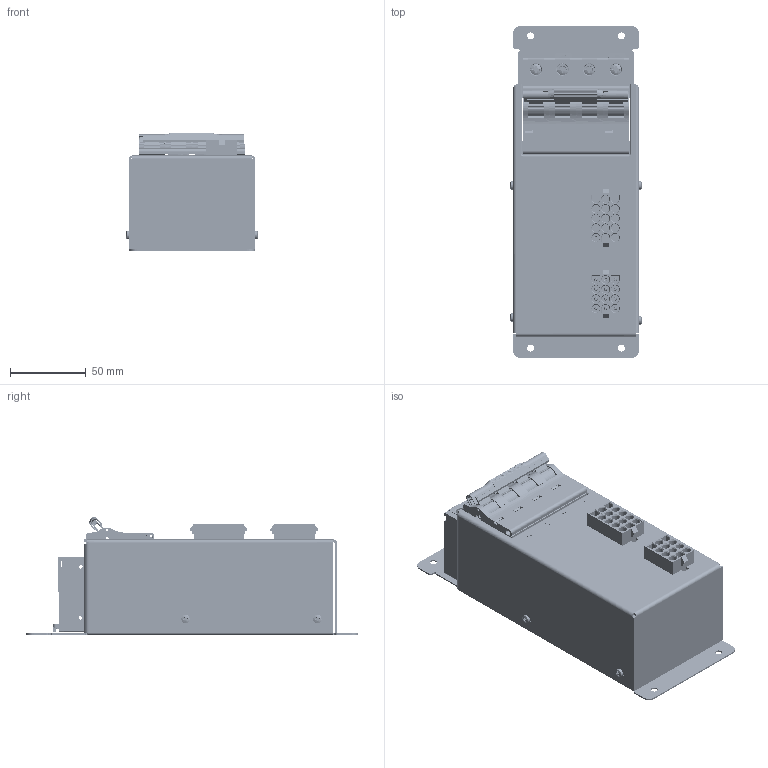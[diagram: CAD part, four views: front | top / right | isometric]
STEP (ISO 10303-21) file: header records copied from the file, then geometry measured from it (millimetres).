
FILE_DESCRIPTION (( 'STEP AP203' ), '1' );
FILE_NAME ('分适配器（进线）.STEP', '2025-03-12T02:16:56', ( '' ), ( '' ), 'SwSTEP 2.0', 'SolidWorks 2018', '' );
FILE_SCHEMA (( 'CONFIG_CONTROL_DESIGN' ));
Length unit declared in the file: millimetre
Products named in the file (12): GBT 823 M3×8_GB_CROSS_SCREWS_TYPE3 M3X8-8-N; S-1-3; 8LD.024.1280; NDB2-63B6-4; 15渀脣釱; GBT 823 M3×6_GB_CROSS_SCREWS_TYPE3 M3X6-6-N; HF115F-A[3]樟萇ん; GBT 819.1 M3×6_GB_CROSS_SCREWS_TYPE4 M3X4-2.35  H type-N; 13渀脣釱; 蹟譫翐; 煦巠饜んㄗ輛盄ㄘ; 8LD.310.1051
Assembly tree (23 placements, depth 2):
  煦巠饜んㄗ輛盄ㄘ
    8LD.024.1280
    8LD.310.1051
    NDB2-63B6-4
    15渀脣釱
    13渀脣釱
    S-1-3
    GBT 819.1 M3×6_GB_CROSS_SCREWS_TYPE4 M3X4-2.35  H type-N  x5
    GBT 823 M3×6_GB_CROSS_SCREWS_TYPE3 M3X6-6-N
    GBT 823 M3×8_GB_CROSS_SCREWS_TYPE3 M3X8-8-N  x6
    蹟譫翐  x4
    HF115F-A[3]樟萇ん
Bounding box: 87.25 x 219 x 77.8 mm (x, y, z)
Volume: 106731.7 mm3; surface area: 228071.1 mm2
Topology: 22 solids, 147 shells, 5192 faces, 18096 edges, 13057 vertices
Faces by surface type: plane 2866, cylinder 1654, cone 337, bspline 207, torus 78, sphere 50
Entity records: 225704 total; most frequent: CARTESIAN_POINT 79572, ORIENTED_EDGE 28430, DIRECTION 28263, EDGE_CURVE 17400, VERTEX_POINT 12617, LINE 11183, VECTOR 11183, AXIS2_PLACEMENT_3D 8540
